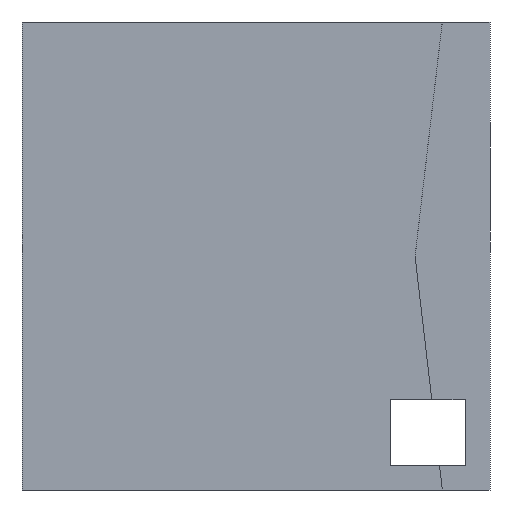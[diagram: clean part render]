
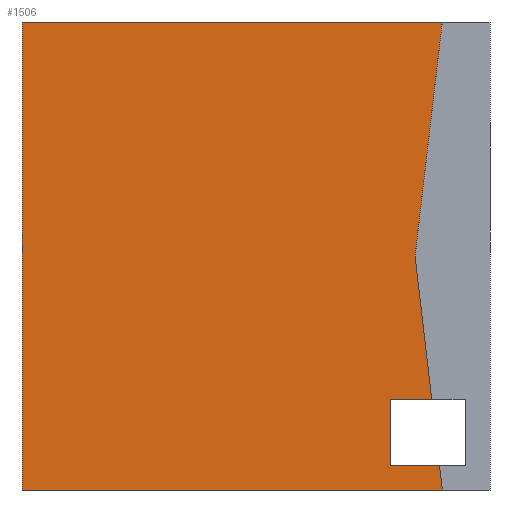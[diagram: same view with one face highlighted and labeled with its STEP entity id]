
A CAD part, left-side view. The second image highlights one B-rep face of the part: STEP entity #1506.
In plain terms, the highlighted planar face has unit normal (-1, 0, 0).
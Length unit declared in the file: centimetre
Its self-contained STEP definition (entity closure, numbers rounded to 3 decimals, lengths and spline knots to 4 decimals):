
#51 = CARTESIAN_POINT ( 'NONE',  ( 0., 213.535, 51.8775 ) ) ;
#72 = DIRECTION ( 'NONE',  ( 0., -1., 0. ) ) ;
#149 = EDGE_CURVE ( 'NONE', #1206, #2390, #2444, .T. ) ;
#189 = ORIENTED_EDGE ( 'NONE', *, *, #1548, .F. ) ;
#228 = CARTESIAN_POINT ( 'NONE',  ( 0., 1000., 0. ) ) ;
#238 = VERTEX_POINT ( 'NONE', #2283 ) ;
#242 = CARTESIAN_POINT ( 'NONE',  ( 0., 101.9291, 0. ) ) ;
#360 = VERTEX_POINT ( 'NONE', #2160 ) ;
#407 = CARTESIAN_POINT ( 'NONE',  ( 0., 213.535, 193.3115 ) ) ;
#460 = ORIENTED_EDGE ( 'NONE', *, *, #565, .F. ) ;
#485 = CARTESIAN_POINT ( 'NONE',  ( 0., 1000., 1000. ) ) ;
#488 = EDGE_CURVE ( 'NONE', #2197, #2448, #912, .T. ) ;
#527 = EDGE_CURVE ( 'NONE', #360, #238, #1634, .T. ) ;
#540 = CARTESIAN_POINT ( 'NONE',  ( 0., 124.4156, 193.3115 ) ) ;
#546 = VECTOR ( 'NONE', #1869, 100. ) ;
#565 = EDGE_CURVE ( 'NONE', #703, #715, #1863, .T. ) ;
#602 = EDGE_CURVE ( 'NONE', #2390, #747, #2289, .T. ) ;
#703 = VERTEX_POINT ( 'NONE', #1892 ) ;
#715 = VERTEX_POINT ( 'NONE', #1159 ) ;
#727 = CARTESIAN_POINT ( 'NONE',  ( 0., 1000., 0. ) ) ;
#740 = AXIS2_PLACEMENT_3D ( 'NONE', #2293, #1368, #1967 ) ;
#747 = VERTEX_POINT ( 'NONE', #242 ) ;
#748 = VECTOR ( 'NONE', #1326, 100. ) ;
#755 = CARTESIAN_POINT ( 'NONE',  ( 0., 1000., 1000. ) ) ;
#761 = DIRECTION ( 'NONE',  ( 0., -0.116, -0.993 ) ) ;
#881 = DIRECTION ( 'NONE',  ( 0., 1., 0. ) ) ;
#895 = CARTESIAN_POINT ( 'NONE',  ( 0., 53.1334, 193.3115 ) ) ;
#912 = LINE ( 'NONE', #895, #1367 ) ;
#935 = LINE ( 'NONE', #952, #2004 ) ;
#936 = VECTOR ( 'NONE', #2265, 100. ) ;
#941 = VECTOR ( 'NONE', #1171, 100. ) ;
#951 = VECTOR ( 'NONE', #72, 100. ) ;
#952 = CARTESIAN_POINT ( 'NONE',  ( 0., 160.0904, 500. ) ) ;
#953 = ORIENTED_EDGE ( 'NONE', *, *, #527, .F. ) ;
#987 = ORIENTED_EDGE ( 'NONE', *, *, #1792, .F. ) ;
#1159 = CARTESIAN_POINT ( 'NONE',  ( 0., 160.0904, 500. ) ) ;
#1171 = DIRECTION ( 'NONE',  ( 0., 0., -1. ) ) ;
#1180 = ORIENTED_EDGE ( 'NONE', *, *, #1690, .F. ) ;
#1200 = ORIENTED_EDGE ( 'NONE', *, *, #1867, .F. ) ;
#1206 = VERTEX_POINT ( 'NONE', #755 ) ;
#1326 = DIRECTION ( 'NONE',  ( 0., -1., 0. ) ) ;
#1327 = LINE ( 'NONE', #1502, #936 ) ;
#1349 = PLANE ( 'NONE',  #740 ) ;
#1367 = VECTOR ( 'NONE', #881, 100. ) ;
#1368 = DIRECTION ( 'NONE',  ( 1., 0., 0. ) ) ;
#1432 = LINE ( 'NONE', #485, #1966 ) ;
#1451 = CARTESIAN_POINT ( 'NONE',  ( 0., 1000., 1000. ) ) ;
#1502 = CARTESIAN_POINT ( 'NONE',  ( 0., 160.0904, 500. ) ) ;
#1506 = ADVANCED_FACE ( 'NONE', ( #1743 ), #1349, .F. ) ;
#1548 = EDGE_CURVE ( 'NONE', #2448, #360, #1754, .T. ) ;
#1634 = LINE ( 'NONE', #2426, #951 ) ;
#1665 = EDGE_LOOP ( 'NONE', ( #2125, #987, #953, #189, #2191, #1200, #460, #1180, #1878 ) ) ;
#1690 = EDGE_CURVE ( 'NONE', #1206, #703, #1432, .T. ) ;
#1743 = FACE_OUTER_BOUND ( 'NONE', #1665, .T. ) ;
#1754 = LINE ( 'NONE', #51, #941 ) ;
#1792 = EDGE_CURVE ( 'NONE', #238, #747, #935, .T. ) ;
#1816 = VECTOR ( 'NONE', #1876, 100. ) ;
#1863 = LINE ( 'NONE', #2438, #1816 ) ;
#1867 = EDGE_CURVE ( 'NONE', #715, #2197, #1327, .T. ) ;
#1869 = DIRECTION ( 'NONE',  ( 0., 0., -1. ) ) ;
#1876 = DIRECTION ( 'NONE',  ( 0., 0.116, -0.993 ) ) ;
#1878 = ORIENTED_EDGE ( 'NONE', *, *, #149, .T. ) ;
#1892 = CARTESIAN_POINT ( 'NONE',  ( 0., 101.9291, 1000. ) ) ;
#1966 = VECTOR ( 'NONE', #2395, 100. ) ;
#1967 = DIRECTION ( 'NONE',  ( 0., 0., -1. ) ) ;
#2004 = VECTOR ( 'NONE', #761, 100. ) ;
#2125 = ORIENTED_EDGE ( 'NONE', *, *, #602, .T. ) ;
#2160 = CARTESIAN_POINT ( 'NONE',  ( 0., 213.535, 51.8775 ) ) ;
#2191 = ORIENTED_EDGE ( 'NONE', *, *, #488, .F. ) ;
#2197 = VERTEX_POINT ( 'NONE', #540 ) ;
#2265 = DIRECTION ( 'NONE',  ( 0., -0.116, -0.993 ) ) ;
#2283 = CARTESIAN_POINT ( 'NONE',  ( 0., 107.9636, 51.8775 ) ) ;
#2289 = LINE ( 'NONE', #727, #748 ) ;
#2293 = CARTESIAN_POINT ( 'NONE',  ( 0., 1000., 1000. ) ) ;
#2390 = VERTEX_POINT ( 'NONE', #228 ) ;
#2395 = DIRECTION ( 'NONE',  ( 0., -1., 0. ) ) ;
#2426 = CARTESIAN_POINT ( 'NONE',  ( 0., 53.1334, 51.8775 ) ) ;
#2438 = CARTESIAN_POINT ( 'NONE',  ( 0., 101.9291, 1000. ) ) ;
#2444 = LINE ( 'NONE', #1451, #546 ) ;
#2448 = VERTEX_POINT ( 'NONE', #407 ) ;
